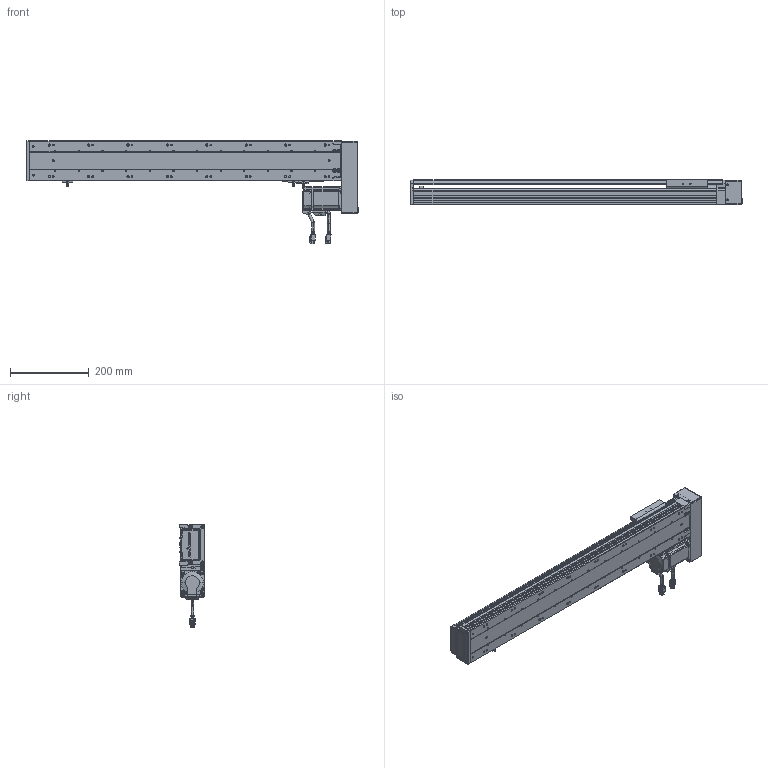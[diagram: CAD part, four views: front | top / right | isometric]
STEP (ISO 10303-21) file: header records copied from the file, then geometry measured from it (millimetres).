
FILE_DESCRIPTION (( 'STEP AP203' ), '1' );
FILE_NAME ('RY100S-L1620-300-RK(15双轨).SLDASM_600.step', '2021-02-20T08:48:14', ( '盈信电脑' ), ( '东莞市道滘镇水果街19号' ), 'SwSTEP 2.0', 'SolidWorks 2012', '' );
FILE_SCHEMA (( 'CONFIG_CONTROL_DESIGN' ));
Products named in the file (25): RY100S-L1620-300-RK(15邧寢).SLDASM_600; 3M30喘15遵; 蚾饜极1^RY100S-L1620-300-RK(15邧寢); RY100S铝滑块（15双轨单滑块）底组装导轨; 5; 7; 侂狟200W萇儂; 6; 4; 2; 1; 3; RY100S转折电机安装板（15双轨）; 肮祭湍3M遵15笚酗282; RY100S左右折电机罩（15双轨）; RY80肮祭湍芢雄輸; RY80肮祭湍覃踡啣; RY100綴裔啣; 滅袉蝶18-24; RY100俋离覜茼え; 覜茼ん672; 滅袉蝶18-10; RY100S转折电机端支撑座(15双轨); RY100S-300-LK转折型材上盖(15双轨)_600; RY100S-350-LK型材底座(低组15双轨)_600
Assembly tree (27 placements, depth 4):
  RY100S-L1620-300-RK(15邧寢).SLDASM_600
    RY100S-350-LK型材底座(低组15双轨)_600
    RY100S-300-LK转折型材上盖(15双轨)_600
    覜茼ん672  x3
    滅袉蝶18-10
    RY100俋离覜茼え
    RY100S转折电机端支撑座(15双轨)
    滅袉蝶18-24
    RY100綴裔啣
    蚾饜极1^RY100S-L1620-300-RK(15邧寢)
      RY80肮祭湍覃踡啣
      RY80肮祭湍芢雄輸  x2
      RY100S左右折电机罩（15双轨）
      RY100S转折电机安装板（15双轨）
      肮祭湍3M遵15笚酗282
      侂狟200W萇儂
        1
        2
        3
        4
        5
        6
        7
      3M30喘15遵
    RY100S铝滑块（15双轨单滑块）底组装导轨
Bounding box: 842.5 x 65 x 263.3 mm (x, y, z)
Volume: 2086083.7 mm3; surface area: 812385.8 mm2
Topology: 25 solids, 25 shells, 3266 faces, 8801 edges, 5674 vertices
Faces by surface type: plane 1716, cylinder 1267, cone 169, bspline 114
Entity records: 106367 total; most frequent: CARTESIAN_POINT 26584, ORIENTED_EDGE 16306, DIRECTION 15762, EDGE_CURVE 8153, AXIS2_PLACEMENT_3D 5383, VERTEX_POINT 5310, VECTOR 4996, LINE 4996
